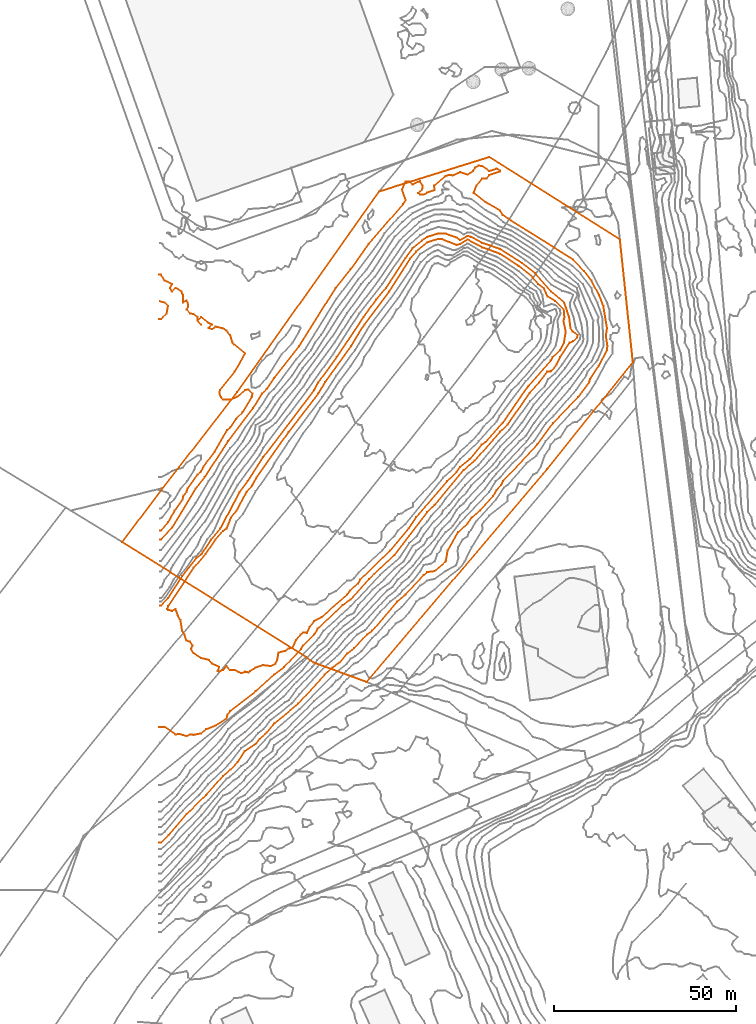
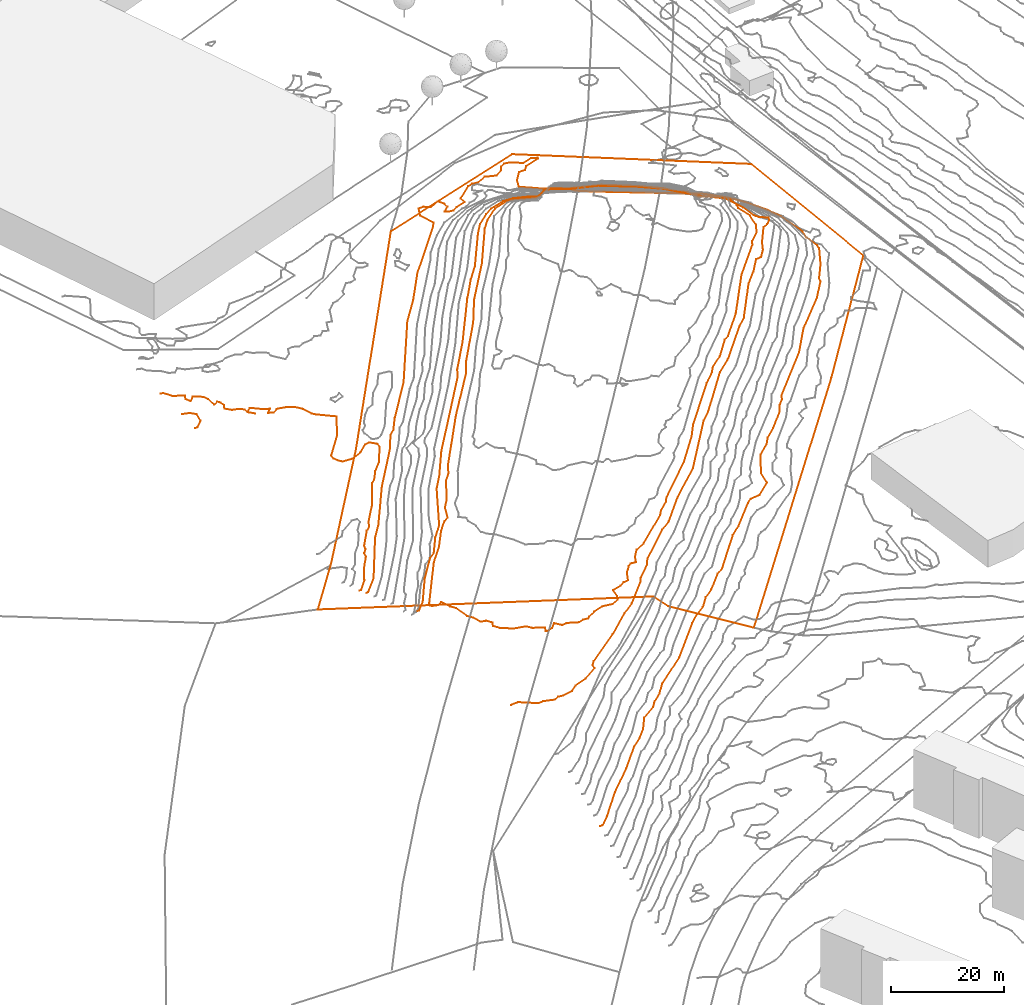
# Not in any storey, part 282 of 419: 6 proxies.
"""IFC2X3 model written with IfcOpenShell, lengths in metres."""

from ifc_helpers import new_model, entity, si_unit, frame, origin_with_axes, place, context, subcontext, project, element, save


model = new_model("IFC2X3")

# Units and contexts
model_context = context("Model", 3, precision=1e-05, world=origin_with_axes())
body_context = subcontext(model_context, "Body", "Model", "MODEL_VIEW")
ifc_project = project(units=[si_unit("AREAUNIT", "SQUARE_METRE"), si_unit("LENGTHUNIT", "METRE")], contexts=[model_context])

# Proxies
proxy_1_placement = place(None, frame((-10.5879795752, 732.2076909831, 22.4121999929), z_axis=(0.0, 0.0, 1.0), x_axis=(1.0, 0.0, 0.0)))
element("IfcBuildingElementProxy", 1, at=proxy_1_placement, Name="Cadastre 332", ObjectType="NOTDEFINED", context=body_context, shape_type="GeometricCurveSet", body=[
    entity("IfcGeometricCurveSet", [entity("IfcPolyline", [entity("IfcCartesianPoint", [70.4199999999, 96.0799999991, -1.149304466]), entity("IfcCartesianPoint", [100.6899999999, 105.5699999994, -0.8600382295]), entity("IfcCartesianPoint", [136.49, 82.9099999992, -1.763895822]), entity("IfcCartesianPoint", [140.0299999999, 49.3799999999, -2.4507395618]), entity("IfcCartesianPoint", [116.5299999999, 20.0, -2.8899344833]), entity("IfcCartesianPoint", [67.0, -38.3600000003, -4.1501398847]), entity("IfcCartesianPoint", [52.5399999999, -33.04, 2.3463437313]), entity("IfcCartesianPoint", [50.3999999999, -31.5100000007, 4.2781394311]), entity("IfcCartesianPoint", [0.0, 0.0, 0.0]), entity("IfcCartesianPoint", [11.1699999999, 14.79, -3.3288403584]), entity("IfcCartesianPoint", [31.5499999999, 41.1099999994, -1.294324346]), entity("IfcCartesianPoint", [70.4199999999, 96.0799999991, -1.149304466])])]),
])
proxy_2_placement = place(None, frame((-0.4079795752, 793.3094537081, 21.0), z_axis=(0.0, 0.0, 1.0), x_axis=(1.0, 0.0, 0.0)))
element("IfcBuildingElementProxy", 2, at=proxy_2_placement, Name="Contour 21.0 m", ObjectType="NOTDEFINED", context=body_context, shape_type="GeometricCurveSet", body=[
    entity("IfcGeometricCurveSet", [entity("IfcPolyline", [entity("IfcCartesianPoint", [0.0, 4.9728492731, 0.0]), entity("IfcCartesianPoint", [1.5, 4.4973266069, 0.0]), entity("IfcCartesianPoint", [2.4090893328, 3.5882372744, 0.0]), entity("IfcCartesianPoint", [2.038462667, 1.5882372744, 0.0]), entity("IfcCartesianPoint", [0.5, 0.0, 0.0]), entity("IfcCartesianPoint", [0.0, 0.0, 0.0])])]),
])
proxy_3_placement = place(None, frame((-0.4079795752, 735.3682785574, 21.0), z_axis=(0.0, 0.0, 1.0), x_axis=(1.0, 0.0, 0.0)))
element("IfcBuildingElementProxy", 3, at=proxy_3_placement, Name="Contour 21.0 m", ObjectType="NOTDEFINED", context=body_context, shape_type="GeometricCurveSet", body=[
    entity("IfcGeometricCurveSet", [entity("IfcPolyline", [entity("IfcCartesianPoint", [0.0, 0.0, 0.0]), entity("IfcCartesianPoint", [0.5, 0.0, 0.0]), entity("IfcCartesianPoint", [2.5, 2.3106631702, 0.0]), entity("IfcCartesianPoint", [4.2962955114, 5.5294124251, 0.0]), entity("IfcCartesianPoint", [6.4024372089, 8.5294124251, 0.0]), entity("IfcCartesianPoint", [6.6632652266, 9.5294124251, 0.0]), entity("IfcCartesianPoint", [7.4714279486, 10.5294124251, 0.0]), entity("IfcCartesianPoint", [7.790909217, 11.5294124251, 0.0]), entity("IfcCartesianPoint", [10.5, 15.3008414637, 0.0]), entity("IfcCartesianPoint", [11.5, 16.1579846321, 0.0]), entity("IfcCartesianPoint", [12.1274501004, 17.5294124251, 0.0]), entity("IfcCartesianPoint", [15.1304354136, 21.5294124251, 0.0]), entity("IfcCartesianPoint", [18.6000019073, 27.5294124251, 0.0]), entity("IfcCartesianPoint", [19.5, 28.2794144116, 0.0]), entity("IfcCartesianPoint", [21.0384600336, 30.5294124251, 0.0]), entity("IfcCartesianPoint", [22.923076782, 32.5294124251, 0.0]), entity("IfcCartesianPoint", [25.3837222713, 36.5294124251, 0.0]), entity("IfcCartesianPoint", [25.5882372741, 37.5294124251, 0.0]), entity("IfcCartesianPoint", [24.5, 38.6960817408, 0.0]), entity("IfcCartesianPoint", [23.5, 38.5, 0.0]), entity("IfcCartesianPoint", [21.5, 36.7294111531, 0.0]), entity("IfcCartesianPoint", [19.5, 35.8494121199, 0.0]), entity("IfcCartesianPoint", [17.5, 35.9411751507, 0.0]), entity("IfcCartesianPoint", [16.9736836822, 36.5294124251, 0.0]), entity("IfcCartesianPoint", [16.5500009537, 37.5294124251, 0.0]), entity("IfcCartesianPoint", [16.650002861, 38.5294124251, 0.0]), entity("IfcCartesianPoint", [20.7307726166, 43.5294124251, 0.0]), entity("IfcCartesianPoint", [23.4999500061, 48.5294124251, 0.0]), entity("IfcCartesianPoint", [20.5, 51.0293874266, 0.0]), entity("IfcCartesianPoint", [20.1, 51.5294124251, 0.0]), entity("IfcCartesianPoint", [19.4999857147, 53.5294124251, 0.0]), entity("IfcCartesianPoint", [18.5, 54.7794124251, 0.0]), entity("IfcCartesianPoint", [17.5, 55.4294105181, 0.0]), entity("IfcCartesianPoint", [15.5, 55.8627457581, 0.0]), entity("IfcCartesianPoint", [14.5, 55.1960790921, 0.0]), entity("IfcCartesianPoint", [13.5, 55.529379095, 0.0]), entity("IfcCartesianPoint", [14.4999000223, 56.5294124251, 0.0]), entity("IfcCartesianPoint", [13.5, 56.8627457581, 0.0]), entity("IfcCartesianPoint", [11.5, 58.5293124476, 0.0]), entity("IfcCartesianPoint", [10.5000999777, 57.5294124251, 0.0]), entity("IfcCartesianPoint", [11.5, 56.5295124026, 0.0]), entity("IfcCartesianPoint", [11.5, 56.5293874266, 0.0]), entity("IfcCartesianPoint", [10.4999750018, 57.5294124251, 0.0]), entity("IfcCartesianPoint", [10.4999666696, 58.5294124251, 0.0]), entity("IfcCartesianPoint", [9.5, 59.2794124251, 0.0]), entity("IfcCartesianPoint", [8.4999666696, 59.5294124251, 0.0]), entity("IfcCartesianPoint", [7.4999500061, 60.5294124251, 0.0]), entity("IfcCartesianPoint", [7.9999750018, 61.5294124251, 0.0]), entity("IfcCartesianPoint", [7.8333333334, 62.5294124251, 0.0]), entity("IfcCartesianPoint", [7.5, 63.0293624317, 0.0]), entity("IfcCartesianPoint", [6.5, 62.5293624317, 0.0]), entity("IfcCartesianPoint", [6.4999500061, 64.5294124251, 0.0]), entity("IfcCartesianPoint", [6.1666666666, 65.5294124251, 0.0]), entity("IfcCartesianPoint", [4.5, 66.5293624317, 0.0]), entity("IfcCartesianPoint", [3.4999000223, 65.5294124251, 0.0]), entity("IfcCartesianPoint", [2.9999500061, 66.5294124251, 0.0]), entity("IfcCartesianPoint", [3.4999500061, 67.5294124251, 0.0]), entity("IfcCartesianPoint", [1.5, 68.529379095, 0.0]), entity("IfcCartesianPoint", [0.5, 70.1960790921, 0.0]), entity("IfcCartesianPoint", [0.0, 70.1960790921, 0.0])])]),
])
proxy_4_placement = place(None, frame((1.7843236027, 713.8976909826, 30.0), z_axis=(0.0, 0.0, 1.0), x_axis=(1.0, 0.0, 0.0)))
element("IfcBuildingElementProxy", 4, at=proxy_4_placement, Name="Contour 30.0 m", ObjectType="NOTDEFINED", context=body_context, shape_type="GeometricCurveSet", body=[
    entity("IfcGeometricCurveSet", [entity("IfcPolyline", [entity("IfcCartesianPoint", [22.7076968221, -17.0, 0.0]), entity("IfcCartesianPoint", [22.3076968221, -17.4000000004, 0.0]), entity("IfcCartesianPoint", [21.3076968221, -17.25, 0.0]), entity("IfcCartesianPoint", [20.3076968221, -17.6249910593, 0.0]), entity("IfcCartesianPoint", [18.3076968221, -16.7142779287, 0.0]), entity("IfcCartesianPoint", [17.3076968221, -16.8333280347, 0.0]), entity("IfcCartesianPoint", [16.3076968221, -15.666659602, 0.0]), entity("IfcCartesianPoint", [15.3076968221, -16.7142779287, 0.0]), entity("IfcCartesianPoint", [14.3076968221, -17.1666719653, 0.0]), entity("IfcCartesianPoint", [13.8076468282, -17.0, 0.0]), entity("IfcCartesianPoint", [14.3076634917, -16.0, 0.0]), entity("IfcCartesianPoint", [12.3076968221, -15.0000142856, 0.0]), entity("IfcCartesianPoint", [11.5076968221, -14.0, 0.0]), entity("IfcCartesianPoint", [9.3076968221, -13.5000083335, 0.0]), entity("IfcCartesianPoint", [7.3076968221, -12.1666719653, 0.0]), entity("IfcCartesianPoint", [6.5576968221, -11.0, 0.0]), entity("IfcCartesianPoint", [6.9743634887, -10.0, 0.0]), entity("IfcCartesianPoint", [6.3076968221, -9.0000499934, 0.0]), entity("IfcCartesianPoint", [5.3076968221, -8.75, 0.0]), entity("IfcCartesianPoint", [4.7521506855, -7.0, 0.0]), entity("IfcCartesianPoint", [4.1076968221, -6.0, 0.0]), entity("IfcCartesianPoint", [3.6410301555, -3.0, 0.0]), entity("IfcCartesianPoint", [2.9743634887, -2.0, 0.0]), entity("IfcCartesianPoint", [2.3076968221, -4.99934e-05, 0.0]), entity("IfcCartesianPoint", [1.3076968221, -0.5384626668, 0.0]), entity("IfcCartesianPoint", [0.3076968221, -0.2857181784, 0.0]), entity("IfcCartesianPoint", [0.0, 0.0, 0.0]), entity("IfcCartesianPoint", [0.3076968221, 0.7999999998, 0.0]), entity("IfcCartesianPoint", [7.3076968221, 11.2941186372, 0.0]), entity("IfcCartesianPoint", [10.5114013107, 15.0, 0.0]), entity("IfcCartesianPoint", [13.2233598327, 19.0, 0.0]), entity("IfcCartesianPoint", [15.3076968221, 21.3921581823, 0.0]), entity("IfcCartesianPoint", [16.3210304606, 22.0, 0.0]), entity("IfcCartesianPoint", [17.4816096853, 25.0, 0.0]), entity("IfcCartesianPoint", [19.0219825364, 27.0, 0.0]), entity("IfcCartesianPoint", [21.7467221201, 32.0, 0.0]), entity("IfcCartesianPoint", [23.3076968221, 33.8285731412, 0.0]), entity("IfcCartesianPoint", [24.4667868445, 36.0, 0.0]), entity("IfcCartesianPoint", [33.3076968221, 48.5263163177, 0.0]), entity("IfcCartesianPoint", [41.4410299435, 59.0, 0.0]), entity("IfcCartesianPoint", [43.3076968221, 62.2000000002, 0.0]), entity("IfcCartesianPoint", [50.4167869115, 72.0, 0.0]), entity("IfcCartesianPoint", [54.0576976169, 78.0, 0.0]), entity("IfcCartesianPoint", [60.8505536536, 87.0, 0.0]), entity("IfcCartesianPoint", [66.6276965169, 96.0, 0.0]), entity("IfcCartesianPoint", [68.3076946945, 98.0, 0.0]), entity("IfcCartesianPoint", [71.3076968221, 100.4677427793, 0.0]), entity("IfcCartesianPoint", [74.3076968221, 101.4202908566, 0.0]), entity("IfcCartesianPoint", [75.3076968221, 101.3389842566, 0.0]), entity("IfcCartesianPoint", [79.3076968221, 99.745098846, 0.0]), entity("IfcCartesianPoint", [80.3076968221, 100.0204086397, 0.0]), entity("IfcCartesianPoint", [82.3076968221, 101.25, 0.0]), entity("IfcCartesianPoint", [86.3076968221, 99.1071430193, 0.0]), entity("IfcCartesianPoint", [91.3076968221, 97.3150680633, 0.0]), entity("IfcCartesianPoint", [96.3285306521, 94.0, 0.0]), entity("IfcCartesianPoint", [100.1440599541, 91.0, 0.0]), entity("IfcCartesianPoint", [101.7387313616, 89.0, 0.0]), entity("IfcCartesianPoint", [103.3076968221, 87.8043479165, 0.0]), entity("IfcCartesianPoint", [104.3076968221, 85.6249990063, 0.0]), entity("IfcCartesianPoint", [106.3076968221, 84.4000000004, 0.0]), entity("IfcCartesianPoint", [108.7250878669, 82.0, 0.0]), entity("IfcCartesianPoint", [108.9076962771, 80.0, 0.0]), entity("IfcCartesianPoint", [108.6466810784, 79.0, 0.0]), entity("IfcCartesianPoint", [109.2764461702, 76.0, 0.0]), entity("IfcCartesianPoint", [108.774362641, 73.0, 0.0]), entity("IfcCartesianPoint", [107.7799197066, 71.0, 0.0]), entity("IfcCartesianPoint", [105.7144759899, 69.0, 0.0]), entity("IfcCartesianPoint", [105.1648409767, 68.0, 0.0]), entity("IfcCartesianPoint", [98.9076975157, 61.0, 0.0]), entity("IfcCartesianPoint", [91.9676966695, 51.0, 0.0]), entity("IfcCartesianPoint", [87.3076968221, 45.7551011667, 0.0]), entity("IfcCartesianPoint", [86.2541242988, 45.0, 0.0]), entity("IfcCartesianPoint", [82.9076968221, 41.0, 0.0]), entity("IfcCartesianPoint", [80.3076968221, 38.9298231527, 0.0]), entity("IfcCartesianPoint", [79.3076968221, 37.4999977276, 0.0]), entity("IfcCartesianPoint", [76.7706590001, 35.0, 0.0]), entity("IfcCartesianPoint", [68.3076968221, 25.1458328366, 0.0]), entity("IfcCartesianPoint", [66.1704425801, 22.0, 0.0]), entity("IfcCartesianPoint", [61.1587610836, 16.0, 0.0]), entity("IfcCartesianPoint", [52.9440598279, 8.0, 0.0]), entity("IfcCartesianPoint", [52.326565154, 7.0, 0.0]), entity("IfcCartesianPoint", [50.0955764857, 5.0, 0.0]), entity("IfcCartesianPoint", [49.3076968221, 3.8888865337, 0.0]), entity("IfcCartesianPoint", [42.3076968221, -2.2758627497, 0.0]), entity("IfcCartesianPoint", [40.3076968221, -3.3333298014, 0.0]), entity("IfcCartesianPoint", [39.0429906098, -5.0, 0.0]), entity("IfcCartesianPoint", [38.3076968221, -6.5714305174, 0.0]), entity("IfcCartesianPoint", [37.3076968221, -6.4615412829, 0.0]), entity("IfcCartesianPoint", [36.6076958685, -7.0, 0.0]), entity("IfcCartesianPoint", [35.3076968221, -8.5714305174, 0.0]), entity("IfcCartesianPoint", [34.3076968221, -10.7368442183, 0.0]), entity("IfcCartesianPoint", [33.3076968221, -10.8499971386, 0.0]), entity("IfcCartesianPoint", [32.3076968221, -11.5294124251, 0.0]), entity("IfcCartesianPoint", [30.5076968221, -12.0, 0.0]), entity("IfcCartesianPoint", [30.1772598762, -14.0, 0.0]), entity("IfcCartesianPoint", [29.6606346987, -15.0, 0.0]), entity("IfcCartesianPoint", [28.3076968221, -15.6923031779, 0.0]), entity("IfcCartesianPoint", [26.3076968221, -15.4210510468, 0.0]), entity("IfcCartesianPoint", [24.3076968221, -16.0833346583, 0.0]), entity("IfcCartesianPoint", [22.7076968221, -17.0, 0.0])])]),
])
proxy_5_placement = place(None, frame((-0.4079795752, 681.4691195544, 29.0), z_axis=(0.0, 0.0, 1.0), x_axis=(1.0, 0.0, 0.0)))
element("IfcBuildingElementProxy", 5, at=proxy_5_placement, Name="Contour 29.0 m", ObjectType="NOTDEFINED", context=body_context, shape_type="GeometricCurveSet", body=[
    entity("IfcGeometricCurveSet", [entity("IfcPolyline", [entity("IfcCartesianPoint", [0.0, 33.3963126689, 0.0]), entity("IfcCartesianPoint", [0.5, 33.3963126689, 0.0]), entity("IfcCartesianPoint", [2.4464289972, 35.4285714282, 0.0]), entity("IfcCartesianPoint", [6.3095240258, 41.4285714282, 0.0]), entity("IfcCartesianPoint", [10.2961171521, 46.4285714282, 0.0]), entity("IfcCartesianPoint", [11.6188126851, 47.4285714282, 0.0]), entity("IfcCartesianPoint", [14.2473683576, 51.4285714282, 0.0]), entity("IfcCartesianPoint", [16.7736842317, 54.4285714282, 0.0]), entity("IfcCartesianPoint", [22.0322572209, 64.4285714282, 0.0]), entity("IfcCartesianPoint", [24.2857133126, 67.4285714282, 0.0]), entity("IfcCartesianPoint", [28.5, 73.9785702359, 0.0]), entity("IfcCartesianPoint", [42.4999981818, 92.4285714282, 0.0]), entity("IfcCartesianPoint", [43.5600013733, 94.4285714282, 0.0]), entity("IfcCartesianPoint", [48.7000006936, 101.4285714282, 0.0]), entity("IfcCartesianPoint", [56.0087721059, 112.4285714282, 0.0]), entity("IfcCartesianPoint", [59.5, 117.2507941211, 0.0]), entity("IfcCartesianPoint", [62.1779652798, 120.4285714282, 0.0]), entity("IfcCartesianPoint", [67.5, 128.59878428, 0.0]), entity("IfcCartesianPoint", [69.5, 131.3268774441, 0.0]), entity("IfcCartesianPoint", [72.0121930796, 133.4285714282, 0.0]), entity("IfcCartesianPoint", [73.5, 134.385713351, 0.0]), entity("IfcCartesianPoint", [76.5, 135.3240942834, 0.0]), entity("IfcCartesianPoint", [78.5, 135.2467529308, 0.0]), entity("IfcCartesianPoint", [81.5, 134.2040802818, 0.0]), entity("IfcCartesianPoint", [82.5, 133.5102056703, 0.0]), entity("IfcCartesianPoint", [84.5, 134.6854527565, 0.0]), entity("IfcCartesianPoint", [85.5, 134.4168064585, 0.0]), entity("IfcCartesianPoint", [88.5, 132.7410717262, 0.0]), entity("IfcCartesianPoint", [93.5, 131.0383277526, 0.0]), entity("IfcCartesianPoint", [99.5, 127.196687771, 0.0]), entity("IfcCartesianPoint", [103.0283024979, 124.4285714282, 0.0]), entity("IfcCartesianPoint", [107.5, 119.3893548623, 0.0]), entity("IfcCartesianPoint", [111.0333341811, 116.4285714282, 0.0]), entity("IfcCartesianPoint", [112.3888886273, 112.4285714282, 0.0]), entity("IfcCartesianPoint", [112.7794124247, 109.4285714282, 0.0]), entity("IfcCartesianPoint", [113.3431374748, 108.4285714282, 0.0]), entity("IfcCartesianPoint", [114.7380949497, 107.4285714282, 0.0]), entity("IfcCartesianPoint", [114.5, 106.816327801, 0.0]), entity("IfcCartesianPoint", [113.5, 105.7857133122, 0.0]), entity("IfcCartesianPoint", [112.5, 105.3831157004, 0.0]), entity("IfcCartesianPoint", [109.9130437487, 101.4285714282, 0.0]), entity("IfcCartesianPoint", [108.9411763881, 99.4285714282, 0.0]), entity("IfcCartesianPoint", [107.5, 97.5670332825, 0.0]), entity("IfcCartesianPoint", [106.3965526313, 97.4285714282, 0.0]), entity("IfcCartesianPoint", [104.1046512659, 94.4285714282, 0.0]), entity("IfcCartesianPoint", [101.5, 91.623693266, 0.0]), entity("IfcCartesianPoint", [95.5, 82.9085709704, 0.0]), entity("IfcCartesianPoint", [93.5, 81.0, 0.0]), entity("IfcCartesianPoint", [86.5, 73.0582002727, 0.0]), entity("IfcCartesianPoint", [83.403847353, 70.4285714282, 0.0]), entity("IfcCartesianPoint", [75.5, 60.9134195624, 0.0]), entity("IfcCartesianPoint", [73.5, 58.9895461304, 0.0]), entity("IfcCartesianPoint", [64.5, 47.232492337, 0.0]), entity("IfcCartesianPoint", [57.5, 40.6413376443, 0.0]), entity("IfcCartesianPoint", [52.5, 35.0492622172, 0.0]), entity("IfcCartesianPoint", [50.255101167, 33.4285714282, 0.0]), entity("IfcCartesianPoint", [43.5, 26.9867100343, 0.0]), entity("IfcCartesianPoint", [42.5188683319, 25.4285714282, 0.0]), entity("IfcCartesianPoint", [39.4749994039, 22.4285714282, 0.0]), entity("IfcCartesianPoint", [38.8750009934, 21.4285714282, 0.0]), entity("IfcCartesianPoint", [34.1981138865, 16.4285714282, 0.0]), entity("IfcCartesianPoint", [31.5540551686, 14.4285714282, 0.0]), entity("IfcCartesianPoint", [26.5, 9.8571448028, 0.0]), entity("IfcCartesianPoint", [19.5, 4.4063487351, 0.0]), entity("IfcCartesianPoint", [18.7000006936, 3.4285714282, 0.0]), entity("IfcCartesianPoint", [18.5, 2.4140783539, 0.0]), entity("IfcCartesianPoint", [15.5, 0.4285694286, 0.0]), entity("IfcCartesianPoint", [12.8571389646, -0.5714285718, 0.0]), entity("IfcCartesianPoint", [11.5, -1.6890782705, 0.0]), entity("IfcCartesianPoint", [9.5, -2.1098912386, 0.0]), entity("IfcCartesianPoint", [8.5, -2.0259724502, 0.0]), entity("IfcCartesianPoint", [7.5, -2.4714266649, 0.0]), entity("IfcCartesianPoint", [5.5, -1.8571506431, 0.0]), entity("IfcCartesianPoint", [4.5, -2.0, 0.0]), entity("IfcCartesianPoint", [1.5, 0.0952380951, 0.0]), entity("IfcCartesianPoint", [0.0, 0.0, 0.0])])]),
])
proxy_6_placement = place(None, frame((-0.4079795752, 649.8114853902, 22.0), z_axis=(0.0, 0.0, 1.0), x_axis=(1.0, 0.0, 0.0)))
element("IfcBuildingElementProxy", 6, at=proxy_6_placement, Name="Contour 22.0 m", ObjectType="NOTDEFINED", context=body_context, shape_type="GeometricCurveSet", body=[
    entity("IfcGeometricCurveSet", [entity("IfcPolyline", [entity("IfcCartesianPoint", [0.0, 83.0576335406, 0.0]), entity("IfcCartesianPoint", [0.5, 83.0576335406, 0.0]), entity("IfcCartesianPoint", [3.5, 86.3084272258, 0.0]), entity("IfcCartesianPoint", [10.0227278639, 97.0862055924, 0.0]), entity("IfcCartesianPoint", [12.5, 100.2074198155, 0.0]), entity("IfcCartesianPoint", [18.9081634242, 110.0862055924, 0.0]), entity("IfcCartesianPoint", [25.7203382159, 119.0862055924, 0.0]), entity("IfcCartesianPoint", [28.1909085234, 123.0862055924, 0.0]), entity("IfcCartesianPoint", [29.5, 124.3528726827, 0.0]), entity("IfcCartesianPoint", [31.5, 127.3275846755, 0.0]), entity("IfcCartesianPoint", [38.3750017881, 136.0862055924, 0.0]), entity("IfcCartesianPoint", [48.3723413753, 152.0862055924, 0.0]), entity("IfcCartesianPoint", [52.5, 157.1719217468, 0.0]), entity("IfcCartesianPoint", [57.3695661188, 164.0862055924, 0.0]), entity("IfcCartesianPoint", [66.9054055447, 175.0862055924, 0.0]), entity("IfcCartesianPoint", [67.5833350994, 176.0862055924, 0.0]), entity("IfcCartesianPoint", [66.5869586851, 179.0862055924, 0.0]), entity("IfcCartesianPoint", [67.5, 181.2004937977, 0.0]), entity("IfcCartesianPoint", [68.5, 181.1973190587, 0.0]), entity("IfcCartesianPoint", [69.5, 180.4498427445, 0.0]), entity("IfcCartesianPoint", [71.5, 181.4043870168, 0.0]), entity("IfcCartesianPoint", [72.1944432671, 180.0862055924, 0.0]), entity("IfcCartesianPoint", [72.1363628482, 179.0862055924, 0.0]), entity("IfcCartesianPoint", [71.00001, 178.0862055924, 0.0]), entity("IfcCartesianPoint", [71.5, 177.7015935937, 0.0]), entity("IfcCartesianPoint", [72.5, 177.5978338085, 0.0]), entity("IfcCartesianPoint", [73.5, 178.2225684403, 0.0]), entity("IfcCartesianPoint", [75.5, 178.8810772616, 0.0]), entity("IfcCartesianPoint", [75.3888865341, 180.0862055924, 0.0]), entity("IfcCartesianPoint", [78.5, 182.7433482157, 0.0]), entity("IfcCartesianPoint", [79.5, 183.0549549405, 0.0]), entity("IfcCartesianPoint", [80.5, 182.8740852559, 0.0]), entity("IfcCartesianPoint", [82.5, 183.7899100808, 0.0]), entity("IfcCartesianPoint", [84.5, 183.0862092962, 0.0]), entity("IfcCartesianPoint", [86.0294124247, 184.0862055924, 0.0]), entity("IfcCartesianPoint", [86.6333367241, 185.0862055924, 0.0]), entity("IfcCartesianPoint", [87.5, 185.5862094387, 0.0]), entity("IfcCartesianPoint", [88.5, 185.4809423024, 0.0]), entity("IfcCartesianPoint", [90.5, 184.0862095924, 0.0]), entity("IfcCartesianPoint", [92.5, 184.7225629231, 0.0]), entity("IfcCartesianPoint", [93.5, 184.2112085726, 0.0]), entity("IfcCartesianPoint", [93.5, 184.0092813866, 0.0]), entity("IfcCartesianPoint", [90.5, 182.9952949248, 0.0]), entity("IfcCartesianPoint", [89.7307726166, 182.0862055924, 0.0]), entity("IfcCartesianPoint", [88.5, 182.0407500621, 0.0]), entity("IfcCartesianPoint", [86.9516133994, 180.0862055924, 0.0]), entity("IfcCartesianPoint", [86.1964281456, 178.0862055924, 0.0]), entity("IfcCartesianPoint", [89.5, 175.5427262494, 0.0]), entity("IfcCartesianPoint", [93.5, 173.2612049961, 0.0]), entity("IfcCartesianPoint", [94.2115394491, 172.0862055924, 0.0]), entity("IfcCartesianPoint", [96.5, 170.4635650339, 0.0]), entity("IfcCartesianPoint", [113.5, 159.8220551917, 0.0]), entity("IfcCartesianPoint", [116.5, 156.7465828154, 0.0]), entity("IfcCartesianPoint", [118.5000012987, 154.0862055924, 0.0]), entity("IfcCartesianPoint", [120.6282055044, 150.0862055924, 0.0]), entity("IfcCartesianPoint", [121.7771079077, 147.0862055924, 0.0]), entity("IfcCartesianPoint", [122.7718451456, 141.0862055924, 0.0]), entity("IfcCartesianPoint", [122.4586782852, 139.0862055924, 0.0]), entity("IfcCartesianPoint", [122.8943666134, 136.0862055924, 0.0]), entity("IfcCartesianPoint", [122.7467537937, 135.0862055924, 0.0]), entity("IfcCartesianPoint", [120.5, 130.7062045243, 0.0]), entity("IfcCartesianPoint", [118.1140360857, 127.0862055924, 0.0]), entity("IfcCartesianPoint", [117.8142871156, 126.0862055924, 0.0]), entity("IfcCartesianPoint", [114.785716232, 122.0862055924, 0.0]), entity("IfcCartesianPoint", [108.0000018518, 115.0862055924, 0.0]), entity("IfcCartesianPoint", [103.6346146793, 109.0862055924, 0.0]), entity("IfcCartesianPoint", [94.228813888, 99.0862055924, 0.0]), entity("IfcCartesianPoint", [93.7857139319, 98.0862055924, 0.0]), entity("IfcCartesianPoint", [92.5, 96.6443441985, 0.0]), entity("IfcCartesianPoint", [91.5, 94.961206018, 0.0]), entity("IfcCartesianPoint", [87.9285720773, 91.0862055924, 0.0]), entity("IfcCartesianPoint", [85.6739132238, 89.0862055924, 0.0]), entity("IfcCartesianPoint", [84.5, 87.4546258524, 0.0]), entity("IfcCartesianPoint", [81.910256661, 85.0862055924, 0.0]), entity("IfcCartesianPoint", [79.0921060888, 80.0862055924, 0.0]), entity("IfcCartesianPoint", [78.5740756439, 77.0862055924, 0.0]), entity("IfcCartesianPoint", [75.5, 74.4290647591, 0.0]), entity("IfcCartesianPoint", [73.5, 74.1612070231, 0.0]), entity("IfcCartesianPoint", [72.5, 73.3057182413, 0.0]), entity("IfcCartesianPoint", [67.5, 68.0077724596, 0.0]), entity("IfcCartesianPoint", [65.2543869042, 66.0862055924, 0.0]), entity("IfcCartesianPoint", [58.4347812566, 58.0862055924, 0.0]), entity("IfcCartesianPoint", [56.9590170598, 57.0862055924, 0.0]), entity("IfcCartesianPoint", [53.5, 53.3788893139, 0.0]), entity("IfcCartesianPoint", [51.5, 51.8290625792, 0.0]), entity("IfcCartesianPoint", [49.5, 49.4195389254, 0.0]), entity("IfcCartesianPoint", [47.5, 48.0649284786, 0.0]), entity("IfcCartesianPoint", [45.4183657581, 46.0862055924, 0.0]), entity("IfcCartesianPoint", [38.1206907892, 38.0862055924, 0.0]), entity("IfcCartesianPoint", [31.5, 32.6195397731, 0.0]), entity("IfcCartesianPoint", [29.5, 30.1646387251, 0.0]), entity("IfcCartesianPoint", [27.5, 28.4462062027, 0.0]), entity("IfcCartesianPoint", [26.431033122, 27.0862055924, 0.0]), entity("IfcCartesianPoint", [23.4811316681, 25.0862055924, 0.0]), entity("IfcCartesianPoint", [21.5000016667, 22.0862055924, 0.0]), entity("IfcCartesianPoint", [19.6296293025, 20.0862055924, 0.0]), entity("IfcCartesianPoint", [17.5, 18.2967327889, 0.0]), entity("IfcCartesianPoint", [12.8529416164, 13.0862055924, 0.0]), entity("IfcCartesianPoint", [7.5, 7.803598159, 0.0]), entity("IfcCartesianPoint", [2.5943384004, 2.0862055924, 0.0]), entity("IfcCartesianPoint", [0.5, 0.0, 0.0]), entity("IfcCartesianPoint", [0.0, 0.0, 0.0])])]),
])

save(model, "model.ifc")
